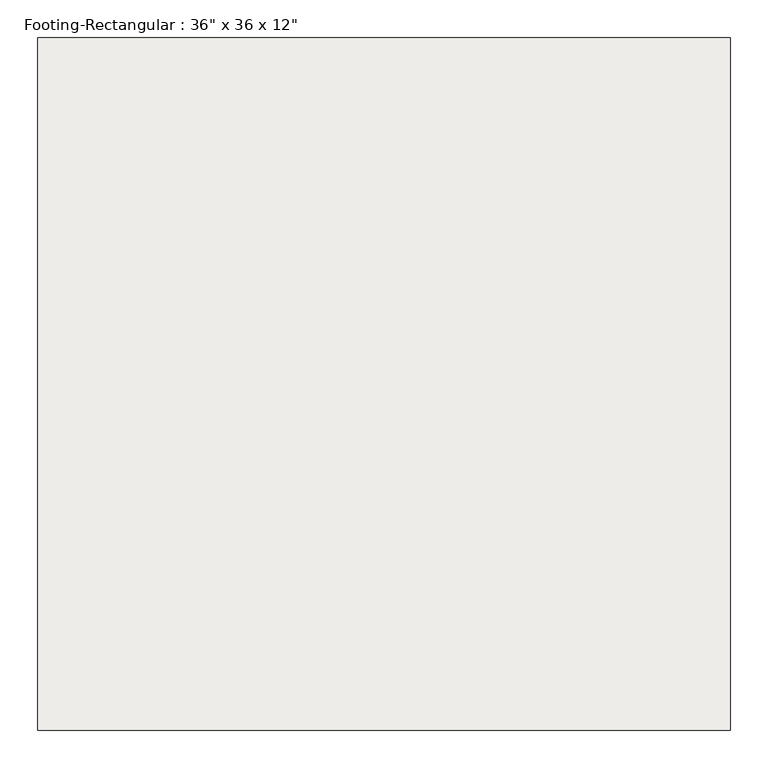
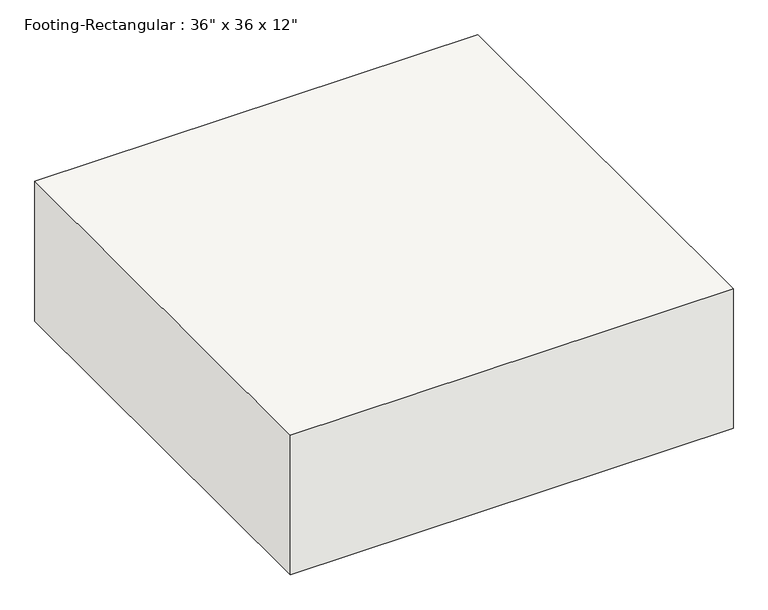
"""IFC4 building model written with IfcOpenShell, lengths in millimetres: slab geometry."""

from ifc_helpers import new_model, si_unit, frame, origin, place, context, project, spatial, polyline, outline, extrude, source, transform, mapped, element, save


def slab_e1b4b68c(model_context):
    return source(origin(), model_context, "Body", "SweptSolid", [
        extrude(outline(polyline([(457.2, 457.2), (457.2, -457.2), (-457.2, -457.2), (-457.2, 457.2), (457.2, 457.2)])), frame((0.0, 0.0, -304.8), z_axis=(0.0, 0.0, 1.0), x_axis=(1.0, 0.0, 0.0)), (0.0, 0.0, 1.0), 304.8),
    ])


if __name__ == "__main__":
    model = new_model("IFC4")
    model_context = context("Model", 3, world=origin())
    ifc_project = project(units=[si_unit("LENGTHUNIT", "METRE", prefix="MILLI")], contexts=[model_context])
    site = spatial("IfcSite", under=ifc_project)
    building = spatial("IfcBuilding", under=site)
    placement = place(None, origin())
    slab_shape = slab_e1b4b68c(model_context)
    element("IfcSlab", 1, ObjectType="Footing-Rectangular : 36\" x 36 x 12\"", at=placement, inside=building, context=model_context, shape_type="MappedRepresentation", body=[
        mapped(slab_shape, transform((0.0, 0.0, 0.0), x_axis=(1.0, 0.0, 0.0), y_axis=(0.0, 1.0, 0.0), z_axis=(0.0, 0.0, 1.0))),
    ])
    save(model, "model.ifc")
